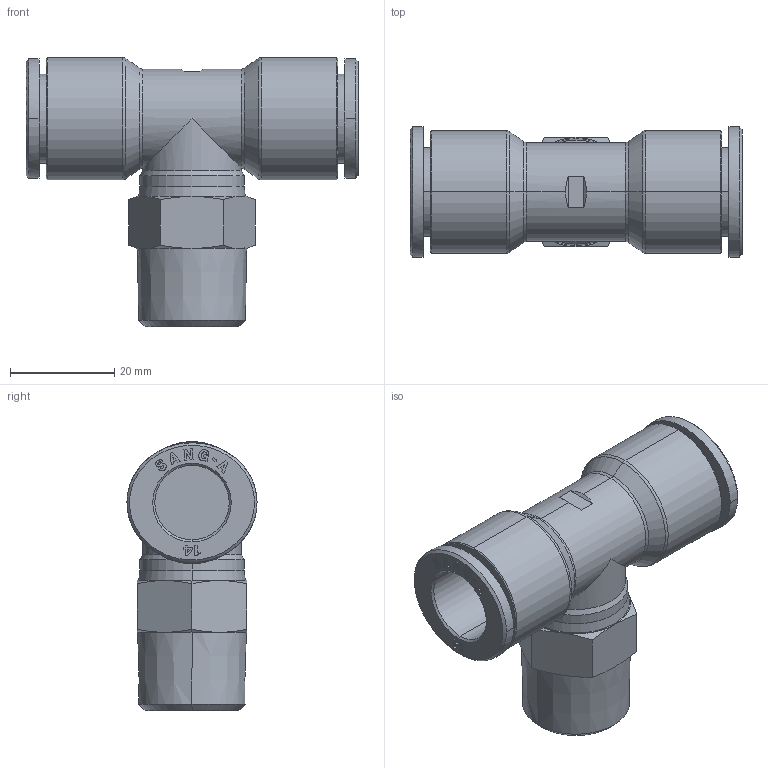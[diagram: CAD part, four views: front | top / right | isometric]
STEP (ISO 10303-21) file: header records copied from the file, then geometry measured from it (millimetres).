
FILE_DESCRIPTION((''),'2;1');
FILE_NAME('GPT 1404(3D).stp','2012-12-26T18:55:51',(''),(''),'Mechanical Desktop.R8.0.24.0','Mechanical Desktop.R8.0.24.0',', , ');
FILE_SCHEMA(('CONFIG_CONTROL_DESIGN'));
Length unit declared in the file: millimetre
Products named in the file (2): GPT 1404(3D); 睡ヶ1
Assembly tree (1 placements, depth 2):
  GPT 1404(3D)
    睡ヶ1
Bounding box: 63.8 x 25 x 51.7 mm (x, y, z)
Volume: 24235 mm3; surface area: 11277.8 mm2
Topology: 1 solids, 1 shells, 365 faces, 948 edges, 613 vertices
Faces by surface type: plane 221, bspline 62, cone 40, cylinder 38, torus 4
Entity records: 12807 total; most frequent: CARTESIAN_POINT 3892, ORIENTED_EDGE 1892, DIRECTION 1758, EDGE_CURVE 946, VECTOR 672, LINE 672, VERTEX_POINT 613, AXIS2_PLACEMENT_3D 543
